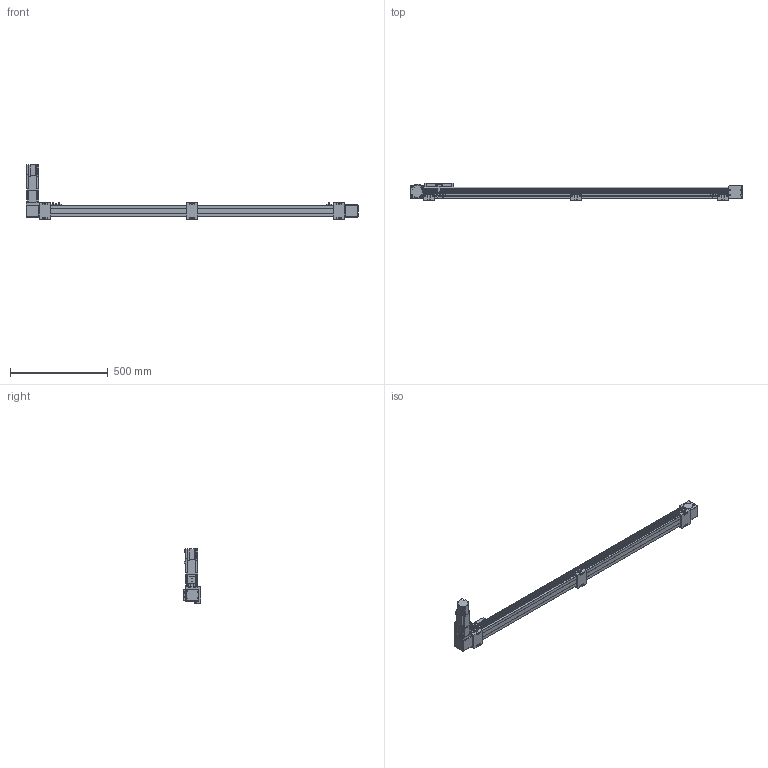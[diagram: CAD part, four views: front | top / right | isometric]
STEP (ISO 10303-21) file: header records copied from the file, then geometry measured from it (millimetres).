
FILE_DESCRIPTION(/* description */ ('STEP AP203'),/* implementation_level */ '2;1');
FILE_NAME(/* name */ 'SK60-P13-S1400-BL-T40-C1-N(0)',/* time_stamp */ '2023-04-06T03:37:06+02:00',/* author */ ('License CC BY-ND 4.0'),/* organization */ ('CADENAS'),/* preprocessor_version */ 'ST-DEVELOPER v19.3',/* originating_system */ 'PARTsolutions',/* authorisation */ ' ');
FILE_SCHEMA (('CONFIG_CONTROL_DESIGN'));
Length unit declared in the file: millimetre
Products named in the file (11): SK60-P13-S1400-BL-T40-C1-N(0); PSC140-sensor; SK60-S450_seat; SK60-S450-BL-C1_slider; SK60_body3; SK60_body6; SK60-BL_body2; T40-p1; SK60_body5; SK60_body4; SK60-S1400-BL-C1_body
Assembly tree (18 placements, depth 2):
  SK60-P13-S1400-BL-T40-C1-N(0)
    PSC140-sensor  x3
    SK60-S450_seat  x3
    SK60-S450-BL-C1_slider
    SK60_body3  x3
    SK60_body6  x2
    SK60-BL_body2  x2
    T40-p1
    SK60_body5
    SK60_body4
    SK60-S1400-BL-C1_body
Bounding box: 1700 x 90 x 278.2 mm (x, y, z)
Volume: 6358411.4 mm3; surface area: 819629.6 mm2
Topology: 18 solids, 22 shells, 878 faces, 2207 edges, 1458 vertices
Faces by surface type: plane 568, cylinder 282, cone 26, torus 2
Full cylindrical faces by diameter (mm): 2.8 x3, 3.3 x4, 4.2 x8, 4.5 x26, 4.6 x3, 4.917 x20, 5 x2, 5.478 x4, 5.5 x23, 6.5 x6, 8 x4, 8.5 x4, 9.988 x4, 10 x12, 13.556 x1, 14 x1, 14.586 x1, 19.692 x1, 38.432 x2, 43 x1, 44 x3, 47 x2, 50 x2
Entity records: 19379 total; most frequent: DIRECTION 3294, CARTESIAN_POINT 3290, ORIENTED_EDGE 3050, EDGE_CURVE 1525, AXIS2_PLACEMENT_3D 1101, LINE 1092, VECTOR 1092, VERTEX_POINT 1077
